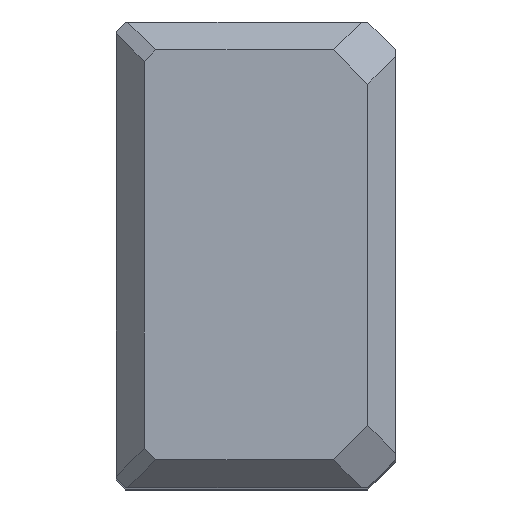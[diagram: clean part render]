
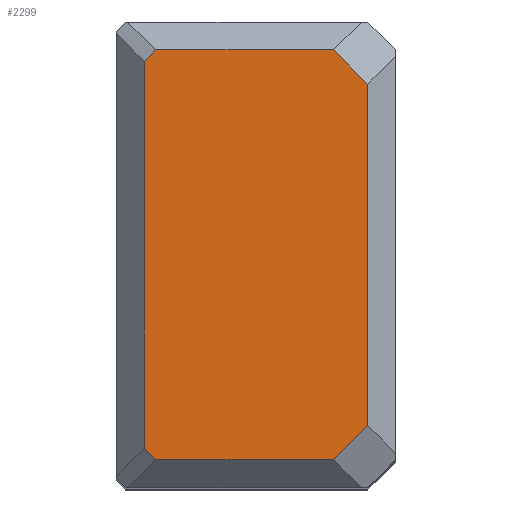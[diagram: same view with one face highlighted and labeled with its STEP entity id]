
A CAD part, top view. The second image highlights one B-rep face of the part: STEP entity #2299.
In plain terms, the highlighted planar face has unit normal (0, 0, 1).
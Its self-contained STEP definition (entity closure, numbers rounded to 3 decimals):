
#95=VERTEX_POINT(' ',#96);
#96=CARTESIAN_POINT('',(-3.,-18.326,0.));
#97=VERTEX_POINT(' ',#98);
#98=CARTESIAN_POINT('',(-6.674,-22.,0.));
#127=VERTEX_POINT(' ',#128);
#128=CARTESIAN_POINT('',(-3.,18.326,0.));
#135=VERTEX_POINT(' ',#136);
#136=CARTESIAN_POINT('',(-6.674,22.,0.));
#165=VERTEX_POINT(' ',#166);
#166=CARTESIAN_POINT('',(-25.775,-22.,0.));
#173=VERTEX_POINT(' ',#174);
#174=CARTESIAN_POINT('',(-27.,-20.775,0.));
#191=VERTEX_POINT(' ',#192);
#192=CARTESIAN_POINT('',(-27.,20.775,0.));
#195=VERTEX_POINT(' ',#196);
#196=CARTESIAN_POINT('',(-25.775,22.,0.));
#424=LINE('',#425,#426);
#425=CARTESIAN_POINT('',(7.663,-7.663,0.));
#426=VECTOR('',#427,1.);
#427=DIRECTION('',(0.707,0.707,0.));
#428=EDGE_CURVE(' ',#95,#97,#424,.F.);
#554=LINE('',#555,#556);
#555=CARTESIAN_POINT('',(-3.,-25.12,0.));
#556=VECTOR('',#557,1.);
#557=DIRECTION('',(0.,1.,0.));
#558=EDGE_CURVE(' ',#95,#127,#554,.T.);
#579=LINE('',#580,#581);
#580=CARTESIAN_POINT('',(7.663,7.663,0.));
#581=VECTOR('',#582,1.);
#582=DIRECTION('',(-0.707,0.707,0.));
#583=EDGE_CURVE(' ',#135,#127,#579,.F.);
#744=LINE('',#745,#746);
#745=CARTESIAN_POINT('',(-30.12,-22.,0.));
#746=VECTOR('',#747,1.);
#747=DIRECTION('',(1.,0.,0.));
#748=EDGE_CURVE(' ',#165,#97,#744,.T.);
#759=LINE('',#760,#761);
#760=CARTESIAN_POINT('',(-23.888,-23.888,0.));
#761=VECTOR('',#762,1.);
#762=DIRECTION('',(0.707,-0.707,0.));
#763=EDGE_CURVE(' ',#165,#173,#759,.F.);
#851=LINE('',#852,#853);
#852=CARTESIAN_POINT('',(-27.,-25.12,0.));
#853=VECTOR('',#854,1.);
#854=DIRECTION('',(0.,1.,0.));
#855=EDGE_CURVE(' ',#173,#191,#851,.T.);
#856=LINE('',#857,#858);
#857=CARTESIAN_POINT('',(-23.888,23.888,0.));
#858=VECTOR('',#859,1.);
#859=DIRECTION('',(-0.707,-0.707,0.));
#860=EDGE_CURVE(' ',#191,#195,#856,.F.);
#861=LINE('',#862,#863);
#862=CARTESIAN_POINT('',(-30.12,22.,0.));
#863=VECTOR('',#864,1.);
#864=DIRECTION('',(1.,0.,0.));
#865=EDGE_CURVE(' ',#135,#195,#861,.F.);
#2284=ORIENTED_EDGE('',*,*,#860,.F.);
#2285=ORIENTED_EDGE('',*,*,#855,.F.);
#2286=ORIENTED_EDGE('',*,*,#763,.F.);
#2287=ORIENTED_EDGE('',*,*,#748,.T.);
#2288=ORIENTED_EDGE('',*,*,#428,.F.);
#2289=ORIENTED_EDGE('',*,*,#558,.T.);
#2290=ORIENTED_EDGE('',*,*,#583,.F.);
#2291=ORIENTED_EDGE('',*,*,#865,.T.);
#2292=EDGE_LOOP('',(#2284,#2285,#2286,#2287,#2288,#2289,#2290,#2291));
#2293=FACE_OUTER_BOUND('',#2292,.T.);
#2294=PLANE('',#2295);
#2295=AXIS2_PLACEMENT_3D('',#2296,#2297,#2298);
#2296=CARTESIAN_POINT('',(-27.,0.,0.));
#2297=DIRECTION('',(0.,0.,1.));
#2298=DIRECTION('',(1.,0.,0.));
#2299=ADVANCED_FACE('',(#2293),#2294,.T.);
